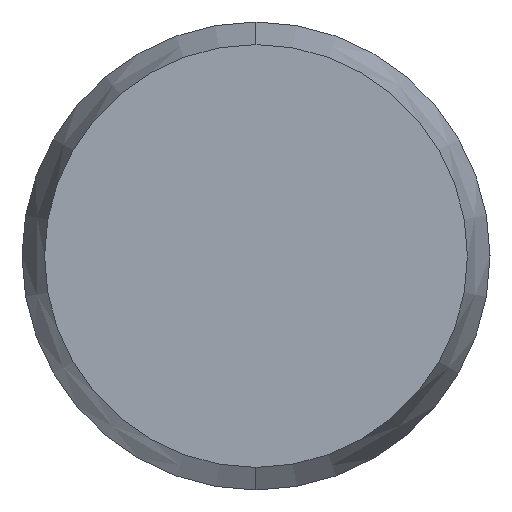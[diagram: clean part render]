
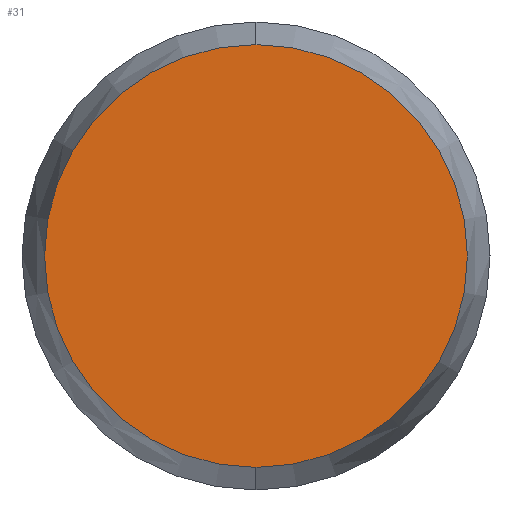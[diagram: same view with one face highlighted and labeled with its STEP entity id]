
A CAD part, left-side view. The second image highlights one B-rep face of the part: STEP entity #31.
In plain terms, the highlighted planar face has unit normal (-1, 0, 0).
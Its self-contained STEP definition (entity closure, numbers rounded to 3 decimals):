
#1 = EDGE_LOOP ( 'NONE', ( #5, #4 ) ) ;
#4 = ORIENTED_EDGE ( 'NONE', *, *, #9, .F. ) ;
#5 = ORIENTED_EDGE ( 'NONE', *, *, #55, .F. ) ;
#9 = EDGE_CURVE ( 'NONE', #53, #54, #82, .T. ) ;
#31 = ADVANCED_FACE ( 'NONE', ( #97 ), #93, .F. ) ;
#53 = VERTEX_POINT ( 'NONE', #175 ) ;
#54 = VERTEX_POINT ( 'NONE', #174 ) ;
#55 = EDGE_CURVE ( 'NONE', #54, #53, #172, .T. ) ;
#82 = CIRCLE ( 'NONE', #86, 1.129 ) ;
#84 = DIRECTION ( 'NONE',  ( 0., 0., -1. ) ) ;
#85 = DIRECTION ( 'NONE',  ( 1., 0., 0. ) ) ;
#86 = AXIS2_PLACEMENT_3D ( 'NONE', #88, #85, #84 ) ;
#88 = CARTESIAN_POINT ( 'NONE',  ( -15., 0., 0. ) ) ;
#93 = PLANE ( 'NONE',  #96 ) ;
#95 = CARTESIAN_POINT ( 'NONE',  ( -15., 0., 0. ) ) ;
#96 = AXIS2_PLACEMENT_3D ( 'NONE', #95, #208, #207 ) ;
#97 = FACE_OUTER_BOUND ( 'NONE', #1, .T. ) ;
#168 = DIRECTION ( 'NONE',  ( 0., 0., -1. ) ) ;
#169 = DIRECTION ( 'NONE',  ( 1., 0., 0. ) ) ;
#170 = CARTESIAN_POINT ( 'NONE',  ( -15., 0., 0. ) ) ;
#171 = AXIS2_PLACEMENT_3D ( 'NONE', #170, #169, #168 ) ;
#172 = CIRCLE ( 'NONE', #171, 1.129 ) ;
#174 = CARTESIAN_POINT ( 'NONE',  ( -15., 0., 1.129 ) ) ;
#175 = CARTESIAN_POINT ( 'NONE',  ( -15., 0., -1.129 ) ) ;
#207 = DIRECTION ( 'NONE',  ( 0., 0., -1. ) ) ;
#208 = DIRECTION ( 'NONE',  ( 1., 0., 0. ) ) ;
